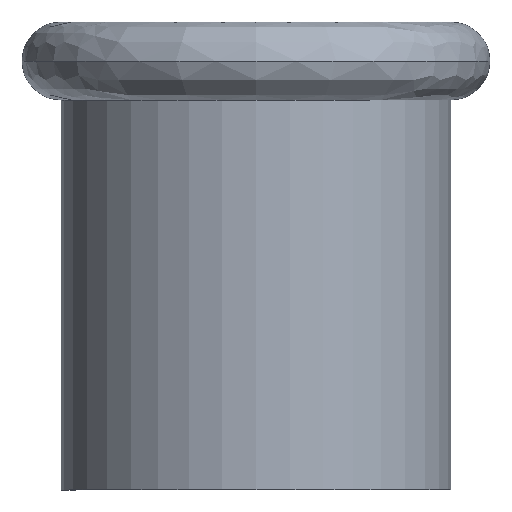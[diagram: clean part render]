
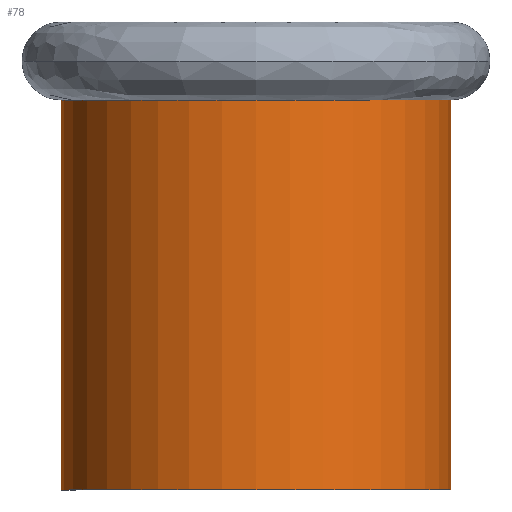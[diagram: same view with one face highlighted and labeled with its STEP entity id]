
A CAD part, left-side view. The second image highlights one B-rep face of the part: STEP entity #78.
In plain terms, the highlighted cylindrical face has radius 25 mm (diameter 50 mm), a partial arc.
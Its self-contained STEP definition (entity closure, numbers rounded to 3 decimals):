
#78 = ADVANCED_FACE ( 'NONE', ( #840 ), #818, .T. ) ;
#185 = AXIS2_PLACEMENT_3D ( 'NONE', #321, #319, #318 ) ;
#318 = DIRECTION ( 'NONE',  ( 0., -1., 0. ) ) ;
#319 = DIRECTION ( 'NONE',  ( 0., 0., 1. ) ) ;
#321 = CARTESIAN_POINT ( 'NONE',  ( 0., 0., 25. ) ) ;
#818 = CYLINDRICAL_SURFACE ( 'NONE', #185, 25. ) ;
#840 = FACE_OUTER_BOUND ( 'NONE', #894, .T. ) ;
#894 = EDGE_LOOP ( 'NONE', ( #967, #901, #900, #899 ) ) ;
#899 = ORIENTED_EDGE ( 'NONE', *, *, #2119, .F. ) ;
#900 = ORIENTED_EDGE ( 'NONE', *, *, #2170, .T. ) ;
#901 = ORIENTED_EDGE ( 'NONE', *, *, #2117, .T. ) ;
#967 = ORIENTED_EDGE ( 'NONE', *, *, #2168, .F. ) ;
#1266 = CIRCLE ( 'NONE', #2244, 25. ) ;
#1268 = CIRCLE ( 'NONE', #2247, 25. ) ;
#1346 = CARTESIAN_POINT ( 'NONE',  ( 0., -25., 0. ) ) ;
#1348 = CARTESIAN_POINT ( 'NONE',  ( 0., 25., 0. ) ) ;
#1350 = CARTESIAN_POINT ( 'NONE',  ( 0., 25., 50. ) ) ;
#1389 = CARTESIAN_POINT ( 'NONE',  ( 0., 0., 50. ) ) ;
#1406 = CARTESIAN_POINT ( 'NONE',  ( 0., 0., 0. ) ) ;
#1407 = DIRECTION ( 'NONE',  ( 0., 0., 1. ) ) ;
#1408 = DIRECTION ( 'NONE',  ( 1., 0., 0. ) ) ;
#1413 = DIRECTION ( 'NONE',  ( 0., 0., 1. ) ) ;
#1414 = DIRECTION ( 'NONE',  ( 1., 0., 0. ) ) ;
#1546 = CARTESIAN_POINT ( 'NONE',  ( 0., 25., 25. ) ) ;
#1547 = DIRECTION ( 'NONE',  ( 0., 0., 1. ) ) ;
#1552 = CARTESIAN_POINT ( 'NONE',  ( 0., -25., 25. ) ) ;
#1553 = DIRECTION ( 'NONE',  ( 0., 0., 1. ) ) ;
#1887 = CARTESIAN_POINT ( 'NONE',  ( 0., -25., 50. ) ) ;
#1924 = LINE ( 'NONE', #1546, #1925 ) ;
#1925 = VECTOR ( 'NONE', #1547, 1000. ) ;
#1927 = LINE ( 'NONE', #1552, #1928 ) ;
#1928 = VECTOR ( 'NONE', #1553, 1000. ) ;
#1947 = VERTEX_POINT ( 'NONE', #1887 ) ;
#2012 = VERTEX_POINT ( 'NONE', #1346 ) ;
#2014 = VERTEX_POINT ( 'NONE', #1348 ) ;
#2016 = VERTEX_POINT ( 'NONE', #1350 ) ;
#2117 = EDGE_CURVE ( 'NONE', #2014, #2012, #1266, .T. ) ;
#2119 = EDGE_CURVE ( 'NONE', #2016, #1947, #1268, .T. ) ;
#2168 = EDGE_CURVE ( 'NONE', #2014, #2016, #1924, .T. ) ;
#2170 = EDGE_CURVE ( 'NONE', #2012, #1947, #1927, .T. ) ;
#2244 = AXIS2_PLACEMENT_3D ( 'NONE', #1406, #1407, #1408 ) ;
#2247 = AXIS2_PLACEMENT_3D ( 'NONE', #1389, #1413, #1414 ) ;
